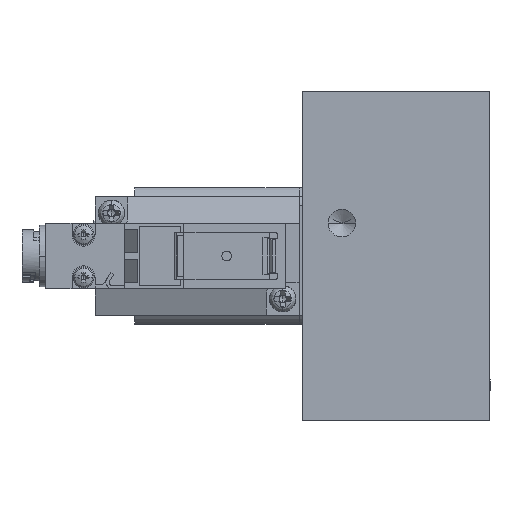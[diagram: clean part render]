
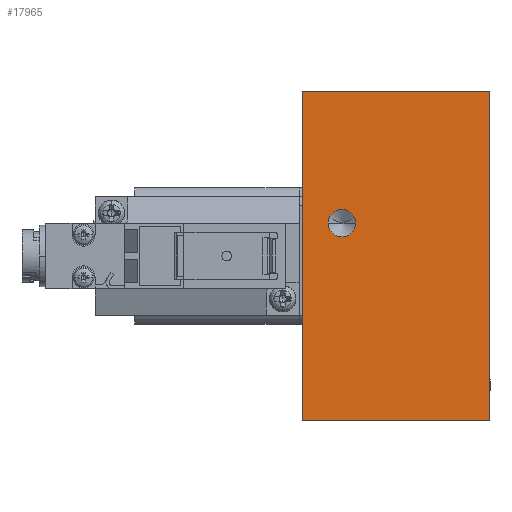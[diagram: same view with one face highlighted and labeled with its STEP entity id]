
A CAD part, left-side view. The second image highlights one B-rep face of the part: STEP entity #17965.
In plain terms, the highlighted planar face has unit normal (-1, 0, 0).
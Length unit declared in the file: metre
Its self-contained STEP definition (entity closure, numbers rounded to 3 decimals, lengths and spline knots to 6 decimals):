
#567 = LINE ( 'NONE', #20463, #1064 ) ;
#1064 = VECTOR ( 'NONE', #6262, 1. ) ;
#1142 = CIRCLE ( 'NONE', #16852, 0.0021 ) ;
#1228 = EDGE_CURVE ( 'NONE', #16538, #9322, #1142, .T. ) ;
#1352 = CARTESIAN_POINT ( 'NONE',  ( -0.037, 0.01425, 0.025 ) ) ;
#1363 = ORIENTED_EDGE ( 'NONE', *, *, #9210, .T. ) ;
#1404 = DIRECTION ( 'NONE',  ( -1., 0., 0. ) ) ;
#1431 = EDGE_LOOP ( 'NONE', ( #6845, #11090 ) ) ;
#1896 = EDGE_LOOP ( 'NONE', ( #1363, #7425, #8167, #7186 ) ) ;
#2583 = FACE_OUTER_BOUND ( 'NONE', #1896, .T. ) ;
#2630 = VERTEX_POINT ( 'NONE', #1352 ) ;
#2757 = CIRCLE ( 'NONE', #8268, 0.0021 ) ;
#3336 = EDGE_CURVE ( 'NONE', #2630, #10991, #16257, .T. ) ;
#3556 = VECTOR ( 'NONE', #4097, 1. ) ;
#4074 = CARTESIAN_POINT ( 'NONE',  ( -0.037, 0.01425, 0. ) ) ;
#4097 = DIRECTION ( 'NONE',  ( 0., 0., -1. ) ) ;
#4708 = CARTESIAN_POINT ( 'NONE',  ( -0.037, -0.01425, -0.025 ) ) ;
#5946 = VERTEX_POINT ( 'NONE', #20446 ) ;
#6030 = DIRECTION ( 'NONE',  ( 0., -1., 0. ) ) ;
#6262 = DIRECTION ( 'NONE',  ( 0., 1., 0. ) ) ;
#6690 = LINE ( 'NONE', #18763, #14671 ) ;
#6845 = ORIENTED_EDGE ( 'NONE', *, *, #1228, .F. ) ;
#7186 = ORIENTED_EDGE ( 'NONE', *, *, #18125, .F. ) ;
#7425 = ORIENTED_EDGE ( 'NONE', *, *, #7713, .F. ) ;
#7455 = DIRECTION ( 'NONE',  ( 1., 0., 0. ) ) ;
#7520 = DIRECTION ( 'NONE',  ( 0., 0., -1. ) ) ;
#7640 = CARTESIAN_POINT ( 'NONE',  ( -0.037, 0.00825, 0.005 ) ) ;
#7713 = EDGE_CURVE ( 'NONE', #2630, #5946, #6690, .T. ) ;
#8167 = ORIENTED_EDGE ( 'NONE', *, *, #3336, .T. ) ;
#8268 = AXIS2_PLACEMENT_3D ( 'NONE', #10935, #1404, #12547 ) ;
#8462 = VECTOR ( 'NONE', #10711, 1. ) ;
#8728 = EDGE_CURVE ( 'NONE', #9322, #16538, #2757, .T. ) ;
#8777 = CARTESIAN_POINT ( 'NONE',  ( -0.037, -0.01425, 0. ) ) ;
#9210 = EDGE_CURVE ( 'NONE', #15262, #5946, #16920, .T. ) ;
#9322 = VERTEX_POINT ( 'NONE', #9663 ) ;
#9663 = CARTESIAN_POINT ( 'NONE',  ( -0.037, 0.01035, 0.005 ) ) ;
#10711 = DIRECTION ( 'NONE',  ( 0., 0., 1. ) ) ;
#10935 = CARTESIAN_POINT ( 'NONE',  ( -0.037, 0.00825, 0.005 ) ) ;
#10991 = VERTEX_POINT ( 'NONE', #17358 ) ;
#11090 = ORIENTED_EDGE ( 'NONE', *, *, #8728, .F. ) ;
#12471 = CARTESIAN_POINT ( 'NONE',  ( -0.037, 0.00615, 0.005 ) ) ;
#12547 = DIRECTION ( 'NONE',  ( 0., -1., 0. ) ) ;
#14671 = VECTOR ( 'NONE', #18700, 1. ) ;
#15262 = VERTEX_POINT ( 'NONE', #4708 ) ;
#15470 = CARTESIAN_POINT ( 'NONE',  ( -0.037, -0.01425, 0.025 ) ) ;
#15663 = AXIS2_PLACEMENT_3D ( 'NONE', #15470, #7455, #7520 ) ;
#16257 = LINE ( 'NONE', #4074, #3556 ) ;
#16538 = VERTEX_POINT ( 'NONE', #12471 ) ;
#16852 = AXIS2_PLACEMENT_3D ( 'NONE', #7640, #17172, #6030 ) ;
#16920 = LINE ( 'NONE', #8777, #8462 ) ;
#17056 = PLANE ( 'NONE',  #15663 ) ;
#17172 = DIRECTION ( 'NONE',  ( -1., 0., 0. ) ) ;
#17358 = CARTESIAN_POINT ( 'NONE',  ( -0.037, 0.01425, -0.025 ) ) ;
#17965 = ADVANCED_FACE ( 'NONE', ( #19969, #2583 ), #17056, .F. ) ;
#18125 = EDGE_CURVE ( 'NONE', #15262, #10991, #567, .T. ) ;
#18700 = DIRECTION ( 'NONE',  ( 0., -1., 0. ) ) ;
#18763 = CARTESIAN_POINT ( 'NONE',  ( -0.037, 0., 0.025 ) ) ;
#19969 = FACE_BOUND ( 'NONE', #1431, .T. ) ;
#20446 = CARTESIAN_POINT ( 'NONE',  ( -0.037, -0.01425, 0.025 ) ) ;
#20463 = CARTESIAN_POINT ( 'NONE',  ( -0.037, 0., -0.025 ) ) ;
